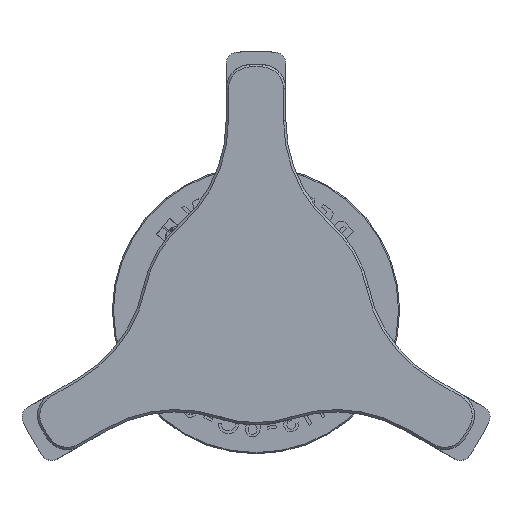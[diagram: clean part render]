
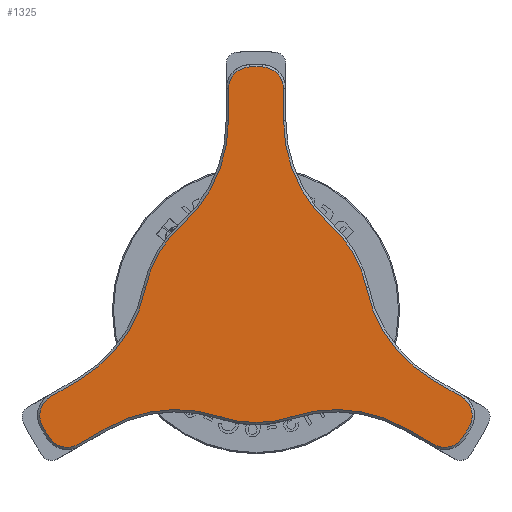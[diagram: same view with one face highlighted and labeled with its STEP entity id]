
A CAD part, top view. The second image highlights one B-rep face of the part: STEP entity #1325.
In plain terms, the highlighted planar face has unit normal (0, 0, 1).
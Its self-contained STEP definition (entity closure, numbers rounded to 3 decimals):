
#1135=PLANE('',#4199);
#1325=ADVANCED_FACE('',(#1526),#1135,.T.);
#1526=FACE_OUTER_BOUND('',#1639,.T.);
#1639=EDGE_LOOP('',(#2266,#2267,#2268,#2269,#2270,#2271,#2272,#2273,#2274,
#2275,#2276,#2277,#2278,#2279,#2280,#2281,#2282,#2283,#2284,#2285,#2286,
#2287,#2288,#2289));
#1885=CIRCLE('',#4181,1.9);
#1886=CIRCLE('',#4182,21.15);
#1887=CIRCLE('',#4183,1.9);
#1888=CIRCLE('',#4184,12.2);
#1889=CIRCLE('',#4185,9.8);
#1890=CIRCLE('',#4186,12.2);
#1891=CIRCLE('',#4187,1.9);
#1892=CIRCLE('',#4188,21.15);
#1893=CIRCLE('',#4189,1.9);
#1894=CIRCLE('',#4190,12.2);
#1895=CIRCLE('',#4191,9.8);
#1896=CIRCLE('',#4192,12.2);
#1897=CIRCLE('',#4193,1.9);
#1898=CIRCLE('',#4194,21.15);
#1899=CIRCLE('',#4195,1.9);
#1900=CIRCLE('',#4196,12.2);
#1901=CIRCLE('',#4197,9.8);
#1902=CIRCLE('',#4198,12.2);
#2266=ORIENTED_EDGE('',*,*,#3538,.T.);
#2267=ORIENTED_EDGE('',*,*,#3539,.T.);
#2268=ORIENTED_EDGE('',*,*,#3540,.T.);
#2269=ORIENTED_EDGE('',*,*,#3541,.T.);
#2270=ORIENTED_EDGE('',*,*,#3542,.T.);
#2271=ORIENTED_EDGE('',*,*,#3543,.T.);
#2272=ORIENTED_EDGE('',*,*,#3544,.T.);
#2273=ORIENTED_EDGE('',*,*,#3545,.T.);
#2274=ORIENTED_EDGE('',*,*,#3546,.T.);
#2275=ORIENTED_EDGE('',*,*,#3547,.T.);
#2276=ORIENTED_EDGE('',*,*,#3548,.T.);
#2277=ORIENTED_EDGE('',*,*,#3549,.T.);
#2278=ORIENTED_EDGE('',*,*,#3550,.T.);
#2279=ORIENTED_EDGE('',*,*,#3551,.T.);
#2280=ORIENTED_EDGE('',*,*,#3552,.T.);
#2281=ORIENTED_EDGE('',*,*,#3553,.T.);
#2282=ORIENTED_EDGE('',*,*,#3554,.T.);
#2283=ORIENTED_EDGE('',*,*,#3555,.T.);
#2284=ORIENTED_EDGE('',*,*,#3556,.T.);
#2285=ORIENTED_EDGE('',*,*,#3557,.T.);
#2286=ORIENTED_EDGE('',*,*,#3558,.T.);
#2287=ORIENTED_EDGE('',*,*,#3559,.T.);
#2288=ORIENTED_EDGE('',*,*,#3560,.T.);
#2289=ORIENTED_EDGE('',*,*,#3561,.T.);
#3160=VERTEX_POINT('',#5253);
#3161=VERTEX_POINT('',#5254);
#3162=VERTEX_POINT('',#5256);
#3163=VERTEX_POINT('',#5258);
#3164=VERTEX_POINT('',#5260);
#3165=VERTEX_POINT('',#5262);
#3166=VERTEX_POINT('',#5264);
#3167=VERTEX_POINT('',#5266);
#3168=VERTEX_POINT('',#5268);
#3169=VERTEX_POINT('',#5270);
#3170=VERTEX_POINT('',#5272);
#3171=VERTEX_POINT('',#5274);
#3172=VERTEX_POINT('',#5276);
#3173=VERTEX_POINT('',#5278);
#3174=VERTEX_POINT('',#5280);
#3175=VERTEX_POINT('',#5282);
#3176=VERTEX_POINT('',#5284);
#3177=VERTEX_POINT('',#5286);
#3178=VERTEX_POINT('',#5288);
#3179=VERTEX_POINT('',#5290);
#3180=VERTEX_POINT('',#5292);
#3181=VERTEX_POINT('',#5294);
#3182=VERTEX_POINT('',#5296);
#3183=VERTEX_POINT('',#5298);
#3538=EDGE_CURVE('',#3160,#3161,#3950,.T.);
#3539=EDGE_CURVE('',#3161,#3162,#1885,.T.);
#3540=EDGE_CURVE('',#3162,#3163,#1886,.T.);
#3541=EDGE_CURVE('',#3163,#3164,#1887,.T.);
#3542=EDGE_CURVE('',#3164,#3165,#3951,.T.);
#3543=EDGE_CURVE('',#3165,#3166,#1888,.T.);
#3544=EDGE_CURVE('',#3166,#3167,#1889,.T.);
#3545=EDGE_CURVE('',#3167,#3168,#1890,.T.);
#3546=EDGE_CURVE('',#3168,#3169,#3952,.T.);
#3547=EDGE_CURVE('',#3169,#3170,#1891,.T.);
#3548=EDGE_CURVE('',#3170,#3171,#1892,.T.);
#3549=EDGE_CURVE('',#3171,#3172,#1893,.T.);
#3550=EDGE_CURVE('',#3172,#3173,#3953,.T.);
#3551=EDGE_CURVE('',#3173,#3174,#1894,.T.);
#3552=EDGE_CURVE('',#3174,#3175,#1895,.T.);
#3553=EDGE_CURVE('',#3175,#3176,#1896,.T.);
#3554=EDGE_CURVE('',#3176,#3177,#3954,.T.);
#3555=EDGE_CURVE('',#3177,#3178,#1897,.T.);
#3556=EDGE_CURVE('',#3178,#3179,#1898,.T.);
#3557=EDGE_CURVE('',#3179,#3180,#1899,.T.);
#3558=EDGE_CURVE('',#3180,#3181,#3955,.T.);
#3559=EDGE_CURVE('',#3181,#3182,#1900,.T.);
#3560=EDGE_CURVE('',#3182,#3183,#1901,.T.);
#3561=EDGE_CURVE('',#3183,#3160,#1902,.T.);
#3950=LINE('',#5252,#4057);
#3951=LINE('',#5261,#4058);
#3952=LINE('',#5269,#4059);
#3953=LINE('',#5277,#4060);
#3954=LINE('',#5285,#4061);
#3955=LINE('',#5293,#4062);
#4057=VECTOR('',#4518,1.);
#4058=VECTOR('',#4525,1.);
#4059=VECTOR('',#4532,1.);
#4060=VECTOR('',#4539,1.);
#4061=VECTOR('',#4546,1.);
#4062=VECTOR('',#4553,1.);
#4181=AXIS2_PLACEMENT_3D('',#5255,#4519,#4520);
#4182=AXIS2_PLACEMENT_3D('',#5257,#4521,#4522);
#4183=AXIS2_PLACEMENT_3D('',#5259,#4523,#4524);
#4184=AXIS2_PLACEMENT_3D('',#5263,#4526,#4527);
#4185=AXIS2_PLACEMENT_3D('',#5265,#4528,#4529);
#4186=AXIS2_PLACEMENT_3D('',#5267,#4530,#4531);
#4187=AXIS2_PLACEMENT_3D('',#5271,#4533,#4534);
#4188=AXIS2_PLACEMENT_3D('',#5273,#4535,#4536);
#4189=AXIS2_PLACEMENT_3D('',#5275,#4537,#4538);
#4190=AXIS2_PLACEMENT_3D('',#5279,#4540,#4541);
#4191=AXIS2_PLACEMENT_3D('',#5281,#4542,#4543);
#4192=AXIS2_PLACEMENT_3D('',#5283,#4544,#4545);
#4193=AXIS2_PLACEMENT_3D('',#5287,#4547,#4548);
#4194=AXIS2_PLACEMENT_3D('',#5289,#4549,#4550);
#4195=AXIS2_PLACEMENT_3D('',#5291,#4551,#4552);
#4196=AXIS2_PLACEMENT_3D('',#5295,#4554,#4555);
#4197=AXIS2_PLACEMENT_3D('',#5297,#4556,#4557);
#4198=AXIS2_PLACEMENT_3D('',#5299,#4558,#4559);
#4199=AXIS2_PLACEMENT_3D('',#5300,#4560,#4561);
#4518=DIRECTION('',(-0.866,-0.5,0.));
#4519=DIRECTION('',(0.,0.,1.));
#4520=DIRECTION('',(0.,-1.,0.));
#4521=DIRECTION('',(0.,0.,1.));
#4522=DIRECTION('',(0.,-1.,0.));
#4523=DIRECTION('',(0.,0.,1.));
#4524=DIRECTION('',(0.,-1.,0.));
#4525=DIRECTION('',(0.866,0.5,0.));
#4526=DIRECTION('',(0.,0.,-1.));
#4527=DIRECTION('',(0.,-1.,0.));
#4528=DIRECTION('',(0.,0.,1.));
#4529=DIRECTION('',(0.,-1.,0.));
#4530=DIRECTION('',(0.,0.,-1.));
#4531=DIRECTION('',(0.,-1.,0.));
#4532=DIRECTION('',(0.866,-0.5,0.));
#4533=DIRECTION('',(0.,0.,1.));
#4534=DIRECTION('',(0.,-1.,0.));
#4535=DIRECTION('',(0.,0.,1.));
#4536=DIRECTION('',(0.,-1.,0.));
#4537=DIRECTION('',(0.,0.,1.));
#4538=DIRECTION('',(0.,-1.,0.));
#4539=DIRECTION('',(-0.866,0.5,0.));
#4540=DIRECTION('',(0.,0.,-1.));
#4541=DIRECTION('',(0.,-1.,0.));
#4542=DIRECTION('',(0.,0.,1.));
#4543=DIRECTION('',(0.,-1.,0.));
#4544=DIRECTION('',(0.,0.,-1.));
#4545=DIRECTION('',(0.,-1.,0.));
#4546=DIRECTION('',(0.,1.,0.));
#4547=DIRECTION('',(0.,0.,1.));
#4548=DIRECTION('',(0.,-1.,0.));
#4549=DIRECTION('',(0.,0.,1.));
#4550=DIRECTION('',(0.,-1.,0.));
#4551=DIRECTION('',(0.,0.,1.));
#4552=DIRECTION('',(0.,-1.,0.));
#4553=DIRECTION('',(0.,-1.,0.));
#4554=DIRECTION('',(0.,0.,-1.));
#4555=DIRECTION('',(0.,-1.,0.));
#4556=DIRECTION('',(0.,0.,1.));
#4557=DIRECTION('',(0.,-1.,0.));
#4558=DIRECTION('',(0.,0.,-1.));
#4559=DIRECTION('',(0.,-1.,0.));
#4560=DIRECTION('',(0.,0.,1.));
#4561=DIRECTION('',(0.,-1.,0.));
#5252=CARTESIAN_POINT('',(-17.865,-7.543,0.3));
#5253=CARTESIAN_POINT('',(-15.452,-6.15,0.3));
#5254=CARTESIAN_POINT('',(-17.865,-7.543,0.3));
#5255=CARTESIAN_POINT('',(-16.915,-9.189,0.3));
#5256=CARTESIAN_POINT('',(-18.585,-10.096,0.3));
#5257=CARTESIAN_POINT('',(0.,0.,0.3));
#5258=CARTESIAN_POINT('',(-18.036,-11.047,0.3));
#5259=CARTESIAN_POINT('',(-16.415,-10.055,0.3));
#5260=CARTESIAN_POINT('',(-15.465,-11.7,0.3));
#5261=CARTESIAN_POINT('',(1.2,-2.078,0.3));
#5262=CARTESIAN_POINT('',(-13.052,-10.307,0.3));
#5263=CARTESIAN_POINT('',(-6.952,-20.873,0.3));
#5264=CARTESIAN_POINT('',(-3.097,-9.298,0.3));
#5265=CARTESIAN_POINT('',(0.,0.,0.3));
#5266=CARTESIAN_POINT('',(3.097,-9.298,0.3));
#5267=CARTESIAN_POINT('',(6.952,-20.873,0.3));
#5268=CARTESIAN_POINT('',(13.052,-10.307,0.3));
#5269=CARTESIAN_POINT('',(-1.2,-2.078,0.3));
#5270=CARTESIAN_POINT('',(15.465,-11.7,0.3));
#5271=CARTESIAN_POINT('',(16.415,-10.055,0.3));
#5272=CARTESIAN_POINT('',(18.036,-11.047,0.3));
#5273=CARTESIAN_POINT('',(0.,0.,0.3));
#5274=CARTESIAN_POINT('',(18.585,-10.096,0.3));
#5275=CARTESIAN_POINT('',(16.915,-9.189,0.3));
#5276=CARTESIAN_POINT('',(17.865,-7.543,0.3));
#5277=CARTESIAN_POINT('',(15.452,-6.15,0.3));
#5278=CARTESIAN_POINT('',(15.452,-6.15,0.3));
#5279=CARTESIAN_POINT('',(21.552,4.415,0.3));
#5280=CARTESIAN_POINT('',(9.601,1.967,0.3));
#5281=CARTESIAN_POINT('',(0.,0.,0.3));
#5282=CARTESIAN_POINT('',(6.504,7.331,0.3));
#5283=CARTESIAN_POINT('',(14.6,16.457,0.3));
#5284=CARTESIAN_POINT('',(2.4,16.457,0.3));
#5285=CARTESIAN_POINT('',(2.4,19.244,0.3));
#5286=CARTESIAN_POINT('',(2.4,19.244,0.3));
#5287=CARTESIAN_POINT('',(0.5,19.244,0.3));
#5288=CARTESIAN_POINT('',(0.549,21.143,0.3));
#5289=CARTESIAN_POINT('',(0.,0.,0.3));
#5290=CARTESIAN_POINT('',(-0.549,21.143,0.3));
#5291=CARTESIAN_POINT('',(-0.5,19.244,0.3));
#5292=CARTESIAN_POINT('',(-2.4,19.244,0.3));
#5293=CARTESIAN_POINT('',(-2.4,16.457,0.3));
#5294=CARTESIAN_POINT('',(-2.4,16.457,0.3));
#5295=CARTESIAN_POINT('',(-14.6,16.457,0.3));
#5296=CARTESIAN_POINT('',(-6.504,7.331,0.3));
#5297=CARTESIAN_POINT('',(0.,0.,0.3));
#5298=CARTESIAN_POINT('',(-9.601,1.967,0.3));
#5299=CARTESIAN_POINT('',(-21.552,4.415,0.3));
#5300=CARTESIAN_POINT('',(0.,0.,0.3));
